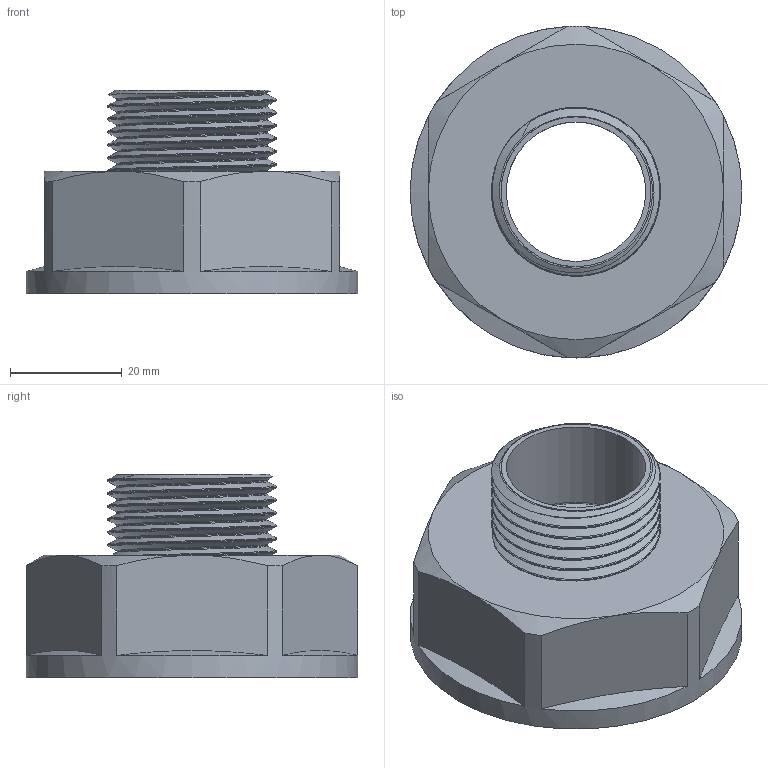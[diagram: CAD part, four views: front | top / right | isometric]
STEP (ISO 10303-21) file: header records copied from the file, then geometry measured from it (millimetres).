
FILE_DESCRIPTION(/* description */ (''),/* implementation_level */ '2;1');
FILE_NAME(/* name */ 'C:\Users\Doom\Desktop\Фадотех\Резьба\P06 18.03.2020\P06 18.03.2020.stp',/* time_stamp */ '2022-01-12T01:13:03+02:00',/* author */ ('Doom'),/* organization */ (''),/* preprocessor_version */ 'ST-DEVELOPER v18',/* originating_system */ 'Autodesk Inventor 2020',/* authorisation */ '');
FILE_SCHEMA (('AUTOMOTIVE_DESIGN { 1 0 10303 214 3 1 1 }'));
Length unit declared in the file: millimetre
Products named in the file (1): P06 18.03.2020
Bounding box: 59.5 x 59.5 x 36.5 mm (x, y, z)
Volume: 23664.5 mm3; surface area: 25646.6 mm2
Topology: 3 solids, 3 shells, 63 faces, 180 edges, 123 vertices
Faces by surface type: cylinder 22, cone 15, plane 14, bspline 12
Full cylindrical faces by diameter (mm): 25 x1, 26.866 x2, 30.29 x5, 44.376 x7, 47.8 x2, 59.5 x1
Entity records: 10337 total; most frequent: CARTESIAN_POINT 8848, ORIENTED_EDGE 352, DIRECTION 235, EDGE_CURVE 176, VERTEX_POINT 121, AXIS2_PLACEMENT_3D 101, EDGE_LOOP 71, B_SPLINE_CURVE_WITH_KNOTS 70
